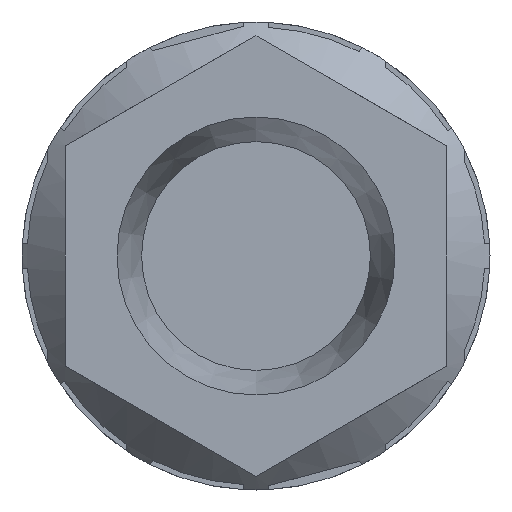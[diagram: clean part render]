
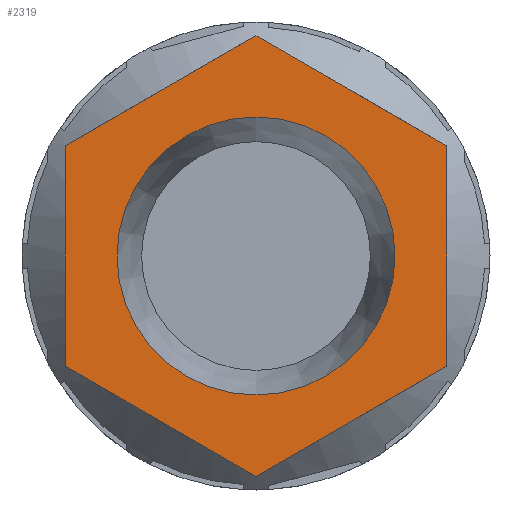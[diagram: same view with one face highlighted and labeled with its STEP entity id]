
A CAD part, left-side view. The second image highlights one B-rep face of the part: STEP entity #2319.
In plain terms, the highlighted planar face has unit normal (-1, 0, 0).
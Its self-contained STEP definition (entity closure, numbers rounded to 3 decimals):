
#215=LINE('',#3998,#403);
#217=LINE('',#4002,#405);
#219=LINE('',#4006,#407);
#221=LINE('',#4010,#409);
#223=LINE('',#4014,#411);
#224=LINE('',#4016,#412);
#403=VECTOR('',#3040,1000.);
#405=VECTOR('',#3044,1000.);
#407=VECTOR('',#3048,1000.);
#409=VECTOR('',#3052,1000.);
#411=VECTOR('',#3056,1000.);
#412=VECTOR('',#3059,1000.);
#813=ORIENTED_EDGE('',*,*,#1444,.T.);
#814=ORIENTED_EDGE('',*,*,#1434,.F.);
#815=ORIENTED_EDGE('',*,*,#1443,.F.);
#816=ORIENTED_EDGE('',*,*,#1442,.F.);
#817=ORIENTED_EDGE('',*,*,#1440,.F.);
#818=ORIENTED_EDGE('',*,*,#1438,.F.);
#819=ORIENTED_EDGE('',*,*,#1436,.F.);
#1434=EDGE_CURVE('',#1743,#1742,#215,.T.);
#1436=EDGE_CURVE('',#1742,#1744,#217,.T.);
#1438=EDGE_CURVE('',#1744,#1745,#219,.T.);
#1440=EDGE_CURVE('',#1745,#1746,#221,.T.);
#1442=EDGE_CURVE('',#1746,#1747,#223,.T.);
#1443=EDGE_CURVE('',#1747,#1743,#224,.T.);
#1444=EDGE_CURVE('',#1748,#1748,#1874,.T.);
#1742=VERTEX_POINT('',#3995);
#1743=VERTEX_POINT('',#3997);
#1744=VERTEX_POINT('',#4001);
#1745=VERTEX_POINT('',#4005);
#1746=VERTEX_POINT('',#4009);
#1747=VERTEX_POINT('',#4013);
#1748=VERTEX_POINT('',#4019);
#1874=CIRCLE('',#2567,5.465);
#1945=EDGE_LOOP('',(#813));
#1946=EDGE_LOOP('',(#814,#815,#816,#817,#818,#819));
#2099=FACE_BOUND('',#1945,.T.);
#2100=FACE_BOUND('',#1946,.T.);
#2211=PLANE('',#2566);
#2319=ADVANCED_FACE('',(#2099,#2100),#2211,.F.);
#2566=AXIS2_PLACEMENT_3D('',#4017,#3060,#3061);
#2567=AXIS2_PLACEMENT_3D('',#4018,#3062,#3063);
#3040=DIRECTION('',(0.,-0.866,0.5));
#3044=DIRECTION('',(0.,-0.866,-0.5));
#3048=DIRECTION('',(0.,0.,-1.));
#3052=DIRECTION('',(0.,0.866,-0.5));
#3056=DIRECTION('',(0.,0.866,0.5));
#3059=DIRECTION('',(0.,0.,1.));
#3060=DIRECTION('',(1.,0.,0.));
#3061=DIRECTION('',(0.,0.,-1.));
#3062=DIRECTION('',(1.,0.,0.));
#3063=DIRECTION('',(0.,0.,-1.));
#3995=CARTESIAN_POINT('',(0.,0.,8.66));
#3997=CARTESIAN_POINT('',(0.,7.5,4.33));
#3998=CARTESIAN_POINT('',(0.,7.5,4.33));
#4001=CARTESIAN_POINT('',(0.,-7.5,4.33));
#4002=CARTESIAN_POINT('',(0.,0.,8.66));
#4005=CARTESIAN_POINT('',(0.,-7.5,-4.33));
#4006=CARTESIAN_POINT('',(0.,-7.5,4.33));
#4009=CARTESIAN_POINT('',(0.,0.,-8.66));
#4010=CARTESIAN_POINT('',(0.,-7.5,-4.33));
#4013=CARTESIAN_POINT('',(0.,7.5,-4.33));
#4014=CARTESIAN_POINT('',(0.,0.,-8.66));
#4016=CARTESIAN_POINT('',(0.,7.5,-4.33));
#4017=CARTESIAN_POINT('',(0.,0.,0.));
#4018=CARTESIAN_POINT('',(0.,0.,0.));
#4019=CARTESIAN_POINT('',(0.,0.,-5.465));
